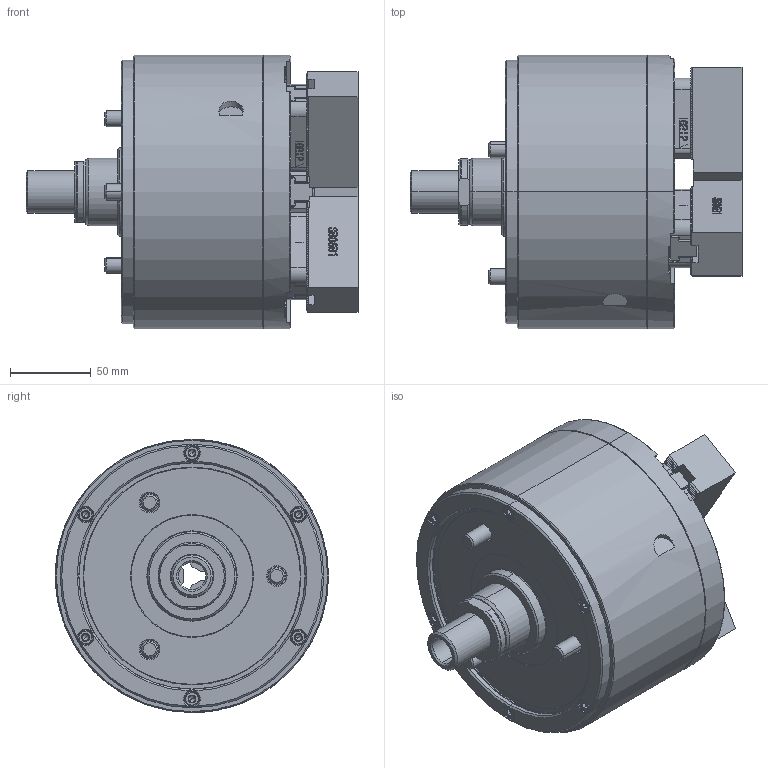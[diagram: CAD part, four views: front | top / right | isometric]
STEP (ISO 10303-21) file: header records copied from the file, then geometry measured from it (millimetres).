
FILE_DESCRIPTION (( 'STEP AP214' ), '1' );
FILE_NAME ('DL206_OC.STEP', '2019-11-07T00:11:21', ( '' ), ( '' ), 'SwSTEP 2.0', 'SolidWorks 2017', '' );
FILE_SCHEMA (( 'AUTOMOTIVE_DESIGN' ));
Length unit declared in the file: millimetre
Products named in the file (5): 結合_OD; 0030110025; 61P385747; 61P456464; DL206_OC
Assembly tree (13 placements, depth 2):
  DL206_OC
    61P456464  x3
    61P385747  x3
    0030110025  x6
    結合_OD
Bounding box: 205.25 x 169 x 169 mm (x, y, z)
Volume: 2475847.8 mm3; surface area: 234690.3 mm2
Topology: 13 solids, 13 shells, 5755 faces, 15637 edges, 10183 vertices
Faces by surface type: plane 3617, bspline 1118, cylinder 607, cone 377, torus 32, sphere 4
Entity records: 180520 total; most frequent: CARTESIAN_POINT 69104, ORIENTED_EDGE 25488, DIRECTION 18878, EDGE_CURVE 12744, LINE 8928, VECTOR 8928, VERTEX_POINT 8333, EDGE_LOOP 5027
